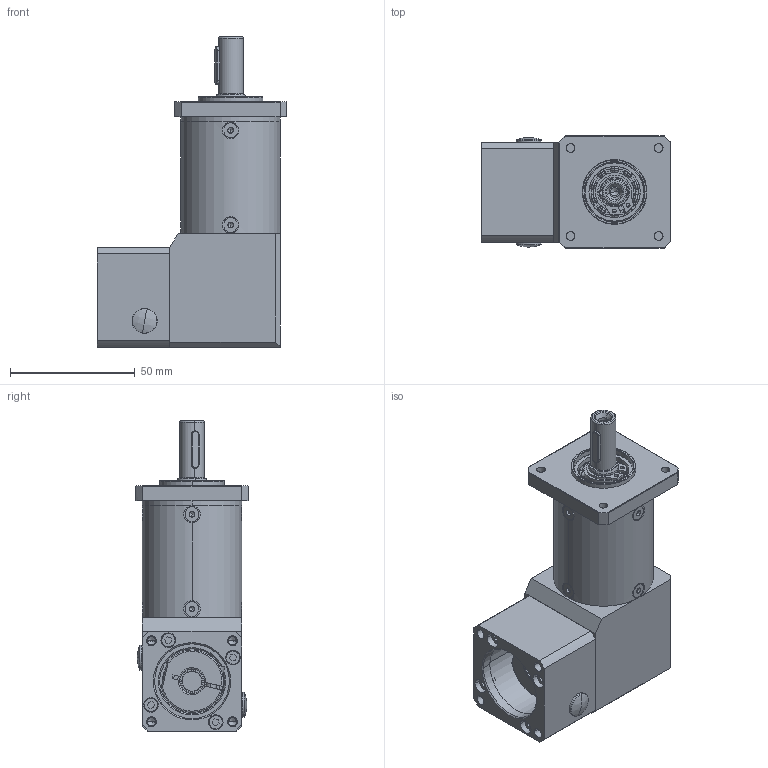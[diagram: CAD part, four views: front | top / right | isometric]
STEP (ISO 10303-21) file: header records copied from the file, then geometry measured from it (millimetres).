
FILE_DESCRIPTION (( 'STEP AP203' ), '1' );
FILE_NAME ('WPF40L2-i-P2-S2-8-25-30-46-M4.step', '2020-03-30T09:04:33', ( '个人用户' ), ( '微软中国' ), 'SwSTEP 2.0', 'SolidWorks 2018', '' );
FILE_SCHEMA (( 'CONFIG_CONTROL_DESIGN' ));
Products named in the file (1): WPF40L2-i-P2-S2-8-25-30-46-M4
Bounding box: 76 x 45 x 124.5 mm (x, y, z)
Volume: 138599 mm3; surface area: 70737.9 mm2
Topology: 41 solids, 41 shells, 1433 faces, 3659 edges, 2303 vertices
Faces by surface type: cylinder 444, plane 355, cone 220, sphere 220, torus 194
Entity records: 50991 total; most frequent: CARTESIAN_POINT 16293, DIRECTION 7384, ORIENTED_EDGE 7250, EDGE_CURVE 3625, AXIS2_PLACEMENT_3D 3198, VERTEX_POINT 2303, CIRCLE 1764, EDGE_LOOP 1654
